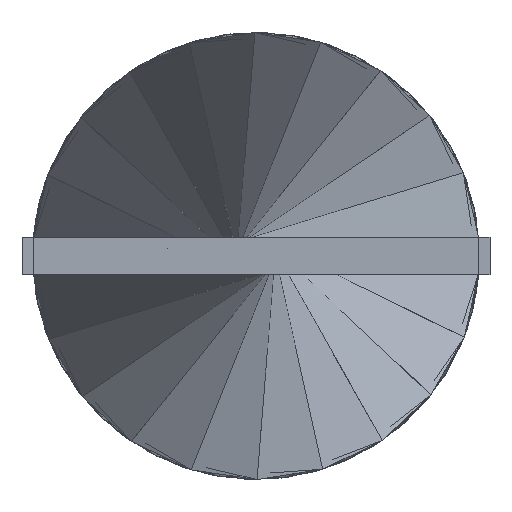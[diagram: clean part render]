
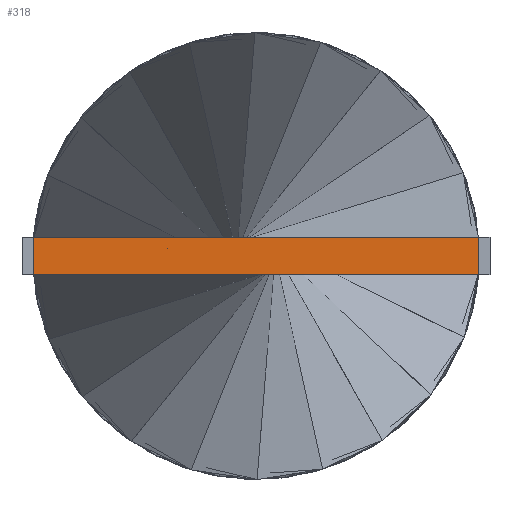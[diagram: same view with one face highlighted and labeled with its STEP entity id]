
A CAD part, front view. The second image highlights one B-rep face of the part: STEP entity #318.
In plain terms, the highlighted planar face has unit normal (0, -1, 0).
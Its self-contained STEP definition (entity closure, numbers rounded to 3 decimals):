
#46 = LINE ( 'NONE', #469, #267 ) ;
#129 = DIRECTION ( 'NONE',  ( 0., -1., 0. ) ) ;
#136 = DIRECTION ( 'NONE',  ( 0., 0., 1. ) ) ;
#169 = CARTESIAN_POINT ( 'NONE',  ( -5.9, 0., 0.5 ) ) ;
#267 = VECTOR ( 'NONE', #1930, 1000. ) ;
#270 = VERTEX_POINT ( 'NONE', #836 ) ;
#318 = ADVANCED_FACE ( 'NONE', ( #729 ), #1966, .T. ) ;
#381 = VECTOR ( 'NONE', #1124, 1000. ) ;
#389 = VECTOR ( 'NONE', #136, 1000. ) ;
#391 = LINE ( 'NONE', #1106, #381 ) ;
#397 = CARTESIAN_POINT ( 'NONE',  ( 5.9, 0., -0.5 ) ) ;
#423 = LINE ( 'NONE', #1065, #389 ) ;
#469 = CARTESIAN_POINT ( 'NONE',  ( -5.9, 0., 0.5 ) ) ;
#471 = VECTOR ( 'NONE', #734, 1000. ) ;
#492 = LINE ( 'NONE', #840, #471 ) ;
#729 = FACE_OUTER_BOUND ( 'NONE', #1325, .T. ) ;
#734 = DIRECTION ( 'NONE',  ( 1., 0., 0. ) ) ;
#836 = CARTESIAN_POINT ( 'NONE',  ( 5.9, 0., 0.5 ) ) ;
#840 = CARTESIAN_POINT ( 'NONE',  ( -5.9, 0., -0.5 ) ) ;
#990 = AXIS2_PLACEMENT_3D ( 'NONE', #1705, #129, #2203 ) ;
#1065 = CARTESIAN_POINT ( 'NONE',  ( 5.9, 0., -0.5 ) ) ;
#1106 = CARTESIAN_POINT ( 'NONE',  ( -5.9, 0., -0.5 ) ) ;
#1124 = DIRECTION ( 'NONE',  ( 0., 0., 1. ) ) ;
#1215 = CARTESIAN_POINT ( 'NONE',  ( -5.9, 0., -0.5 ) ) ;
#1310 = VERTEX_POINT ( 'NONE', #1215 ) ;
#1313 = ORIENTED_EDGE ( 'NONE', *, *, #2321, .F. ) ;
#1325 = EDGE_LOOP ( 'NONE', ( #1563, #1313, #2077, #2053 ) ) ;
#1355 = VERTEX_POINT ( 'NONE', #169 ) ;
#1476 = VERTEX_POINT ( 'NONE', #397 ) ;
#1563 = ORIENTED_EDGE ( 'NONE', *, *, #1714, .T. ) ;
#1641 = EDGE_CURVE ( 'NONE', #1310, #1476, #492, .T. ) ;
#1705 = CARTESIAN_POINT ( 'NONE',  ( -5.9, 0., -0.5 ) ) ;
#1714 = EDGE_CURVE ( 'NONE', #1476, #270, #423, .T. ) ;
#1716 = EDGE_CURVE ( 'NONE', #1310, #1355, #391, .T. ) ;
#1930 = DIRECTION ( 'NONE',  ( 1., 0., 0. ) ) ;
#1966 = PLANE ( 'NONE',  #990 ) ;
#2053 = ORIENTED_EDGE ( 'NONE', *, *, #1641, .T. ) ;
#2077 = ORIENTED_EDGE ( 'NONE', *, *, #1716, .F. ) ;
#2203 = DIRECTION ( 'NONE',  ( 0., 0., -1. ) ) ;
#2321 = EDGE_CURVE ( 'NONE', #1355, #270, #46, .T. ) ;
